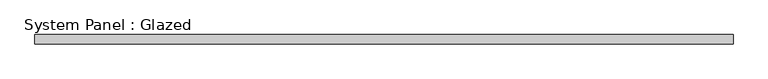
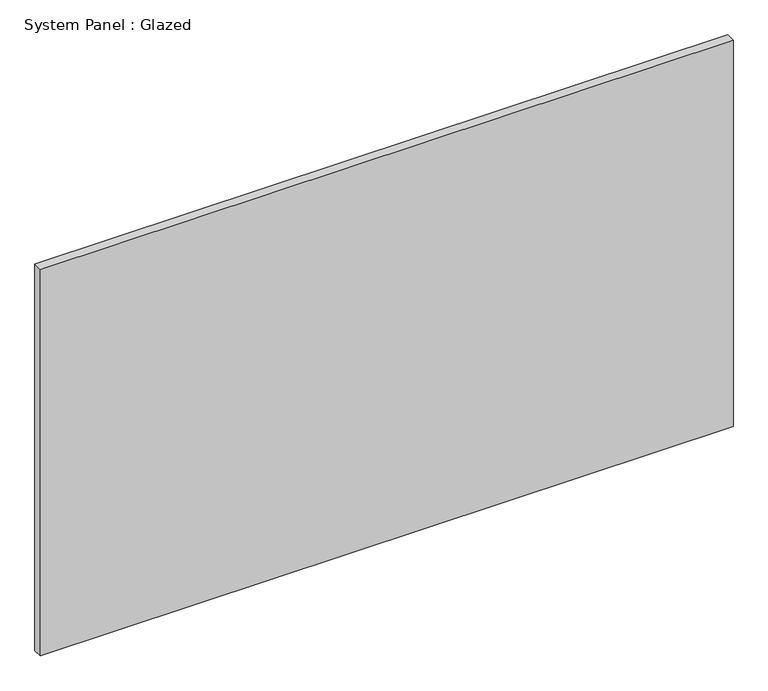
"""IFC4 building model written with IfcOpenShell, lengths in millimetres: plate geometry, System Panel : Glazed."""

from ifc_helpers import new_model, si_unit, origin, origin_with_axes, place, context, project, spatial, polyline, outline, extrude, source, transform, mapped, element, save


def system_panel_glazed_d3a4a7cd(model_context):
    return source(origin(), model_context, "Body", "SweptSolid", [
        extrude(outline(polyline([(952.5, 19.05), (-952.5, 19.05), (-952.5, 44.45), (952.5, 44.45), (952.5, 19.05)])), origin_with_axes(), (0.0, 0.0, 1.0), 1123.95),
    ])


if __name__ == "__main__":
    model = new_model("IFC4")
    model_context = context("Model", 3, world=origin())
    ifc_project = project(units=[si_unit("LENGTHUNIT", "METRE", prefix="MILLI")], contexts=[model_context])
    site = spatial("IfcSite", under=ifc_project)
    building = spatial("IfcBuilding", under=site)
    placement = place(None, origin())
    system_panel_glazed_shape = system_panel_glazed_d3a4a7cd(model_context)
    element("IfcPlate", 1, ObjectType="System Panel : Glazed", at=placement, inside=building, context=model_context, shape_type="MappedRepresentation", body=[
        mapped(system_panel_glazed_shape, transform((0.0, 0.0, 0.0), x_axis=(1.0, 0.0, 0.0), y_axis=(0.0, 1.0, 0.0), z_axis=(0.0, 0.0, 1.0))),
    ])
    save(model, "model.ifc")
